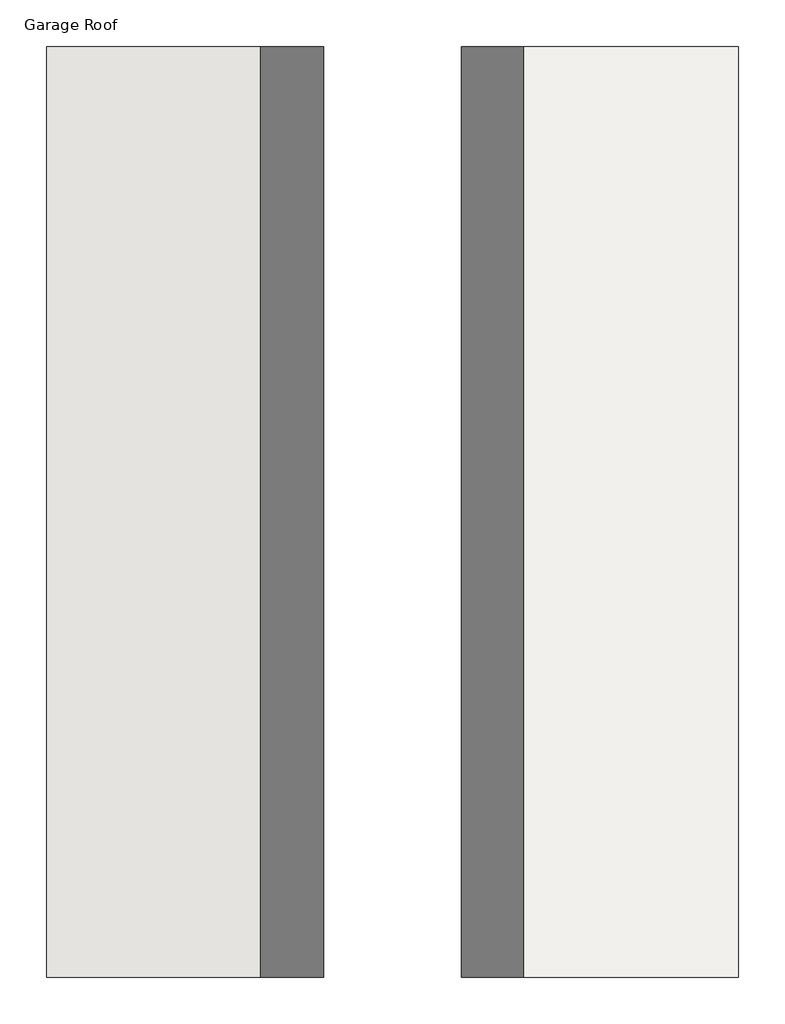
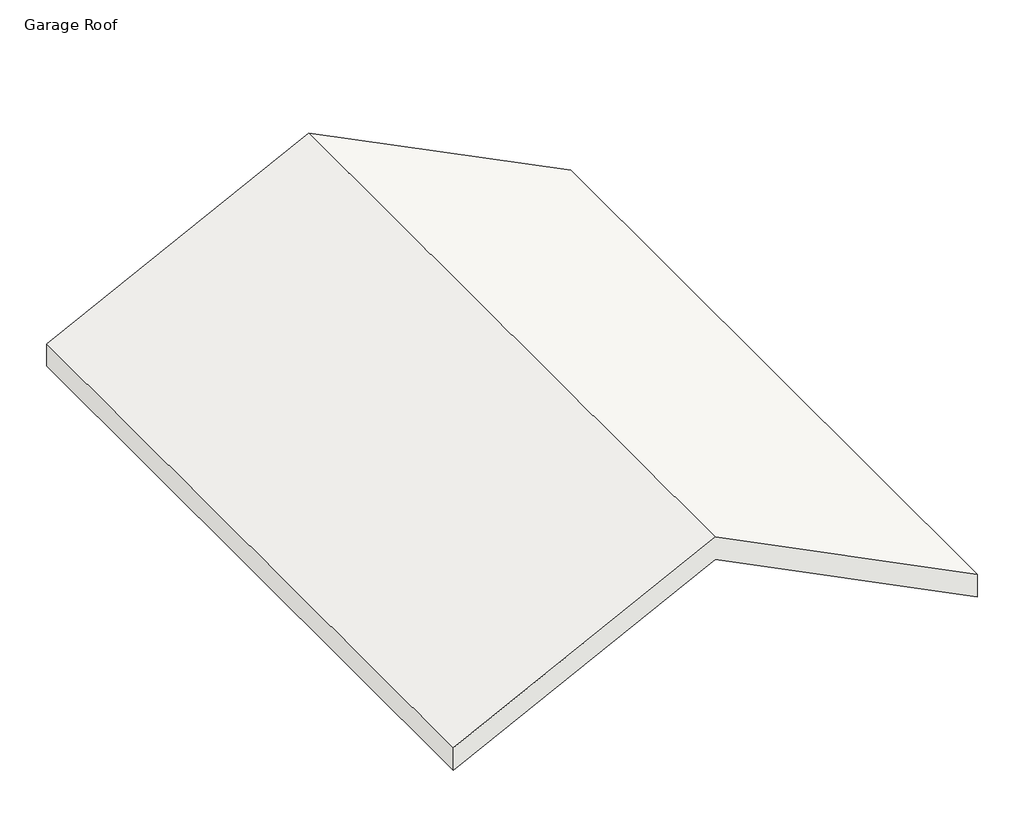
# One storey: 1 roof.
"""IFC4 building model written with IfcOpenShell, lengths in millimetres."""

from ifc_helpers import new_model, si_unit, frame, origin, place, context, project, spatial, polyline, outline, extrude, element, save

model = new_model("IFC4")

# Units and contexts
model_context = context("Model", 3, world=origin())
ifc_project = project(units=[si_unit("LENGTHUNIT", "METRE", prefix="MILLI")], contexts=[model_context])

# Site, building, storey
site = spatial("IfcSite", under=ifc_project)
building = spatial("IfcBuilding", under=site)
storey = spatial("IfcBuildingStorey", under=building, Name="Garage Roof", Elevation=4419.6)

# Roof
placement = place(None, origin())
element("IfcRoof", 1, ObjectType="Generic - 12\"", at=placement, inside=storey, context=model_context, shape_type="SweptSolid", body=[
    extrude(outline(polyline([(4455.5767598, -181465.7354666), (6335.1767598, -185224.9354666), (4455.5767598, -188984.1354666), (4114.8, -188984.1354666), (5994.4, -185224.9354666), (4114.8, -181465.7354666), (4455.5767598, -181465.7354666)])), frame((0.0, 10387.4757393, 0.0), z_axis=(0.0, 1.0, 0.0), x_axis=(0.0, 0.0, 1.0)), (0.0, 0.0, 1.0), 10109.2),
])

save(model, "model.ifc")
